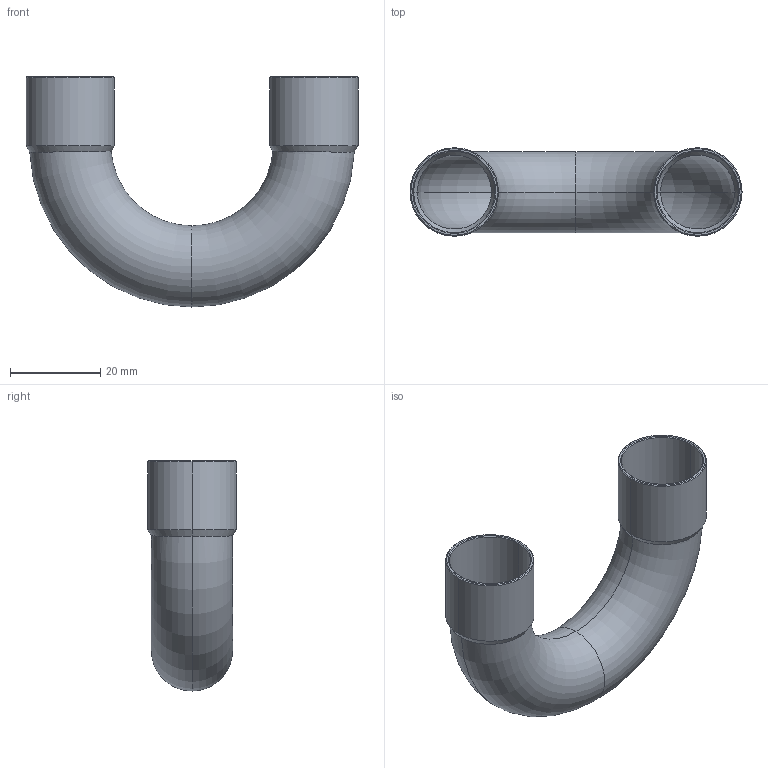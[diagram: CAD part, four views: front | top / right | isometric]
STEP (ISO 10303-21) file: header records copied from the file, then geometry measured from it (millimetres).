
FILE_DESCRIPTION((''),'2;1');
FILE_NAME('C:\sanha_work\5130\f\1506018.stp','2005-10-21T17:22:36',('Kris'),(''),'Autodesk Inventor 8','Autodesk Inventor 8','');
FILE_SCHEMA(('AUTOMOTIVE_DESIGN { 1 0 10303 214 1 1 1 1 }'));
Length unit declared in the file: millimetre
Products named in the file (1): 1506018
Bounding box: 73.6 x 19.6 x 51 mm (x, y, z)
Volume: 5105.1 mm3; surface area: 12841.3 mm2
Topology: 1 solids, 1 shells, 34 faces, 68 edges, 36 vertices
Faces by surface type: cone 12, bspline 9, torus 8, cylinder 4, plane 1
Entity records: 1131 total; most frequent: CARTESIAN_POINT 430, DIRECTION 148, ORIENTED_EDGE 136, EDGE_CURVE 68, AXIS2_PLACEMENT_3D 62, VERTEX_POINT 36, CIRCLE 36, EDGE_LOOP 36
